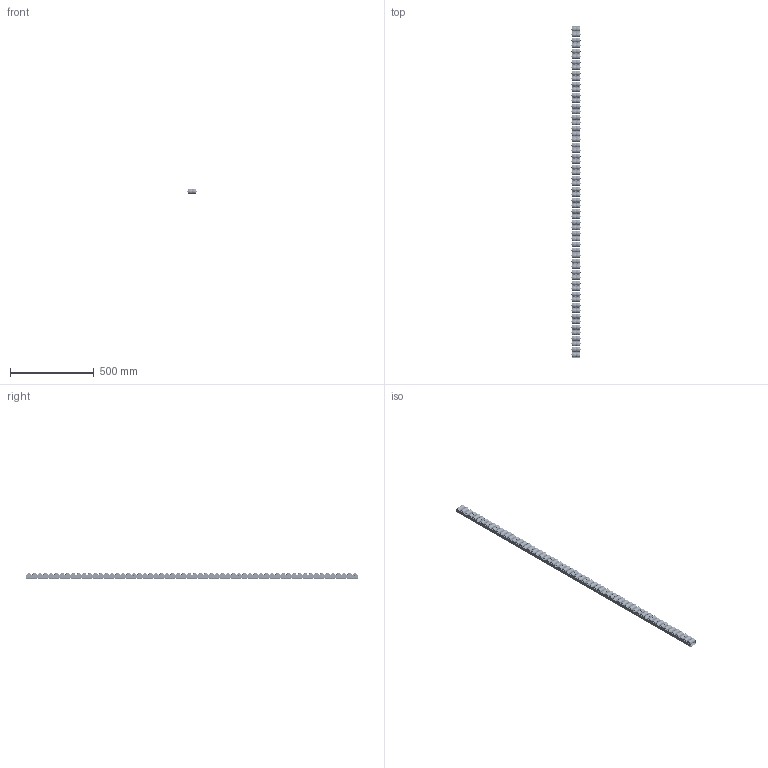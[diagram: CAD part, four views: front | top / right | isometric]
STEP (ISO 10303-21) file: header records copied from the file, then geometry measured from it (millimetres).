
FILE_DESCRIPTION(/* description */ ('Unknown'),/* implementation_level */ '2;1');
FILE_NAME(/* name */ '1769-01-00-Listwa T200GZ',/* time_stamp */ '2024-06-03T14:24:18+02:00',/* author */ ('Unknown'),/* organization */ ('Unknown'),/* preprocessor_version */ 'ST-DEVELOPER v18.104',/* originating_system */ 'Solid Edge',/* authorisation */ 'Unknown');
FILE_SCHEMA (('AUTOMOTIVE_DESIGN {1 0 10303 214 3 1 1}'));
Length unit declared in the file: millimetre
Products named in the file (6): 1769-01-00-Listwa T200GZ; 1769-00-01-Profil T200 Z; Nit.; Rolka T 100G; 790-02-01; 790-02-02
Assembly tree (183 placements, depth 3):
  1769-01-00-Listwa T200GZ
    1769-00-01-Profil T200 Z
    Nit.  x60
    Rolka T 100G  x120
      790-02-01
      790-02-02
Bounding box: 55 x 1983 x 34.88 mm (x, y, z)
Volume: 1866196.1 mm3; surface area: 1444326.9 mm2
Topology: 301 solids, 301 shells, 11224 faces, 30430 edges, 20168 vertices
Faces by surface type: plane 9063, cylinder 1681, torus 240, cone 240
Full cylindrical faces by diameter (mm): 2 x60, 4.2 x60, 5 x60, 5.2 x120, 5.3 x120, 6 x120, 11.5 x240, 16 x240, 20 x240
Entity records: 36895 total; most frequent: DIRECTION 6750, CARTESIAN_POINT 6122, ORIENTED_EDGE 5730, EDGE_CURVE 2865, AXIS2_PLACEMENT_3D 2587, VERTEX_POINT 1959, EDGE_LOOP 1678, FACE_BOUND 1678
